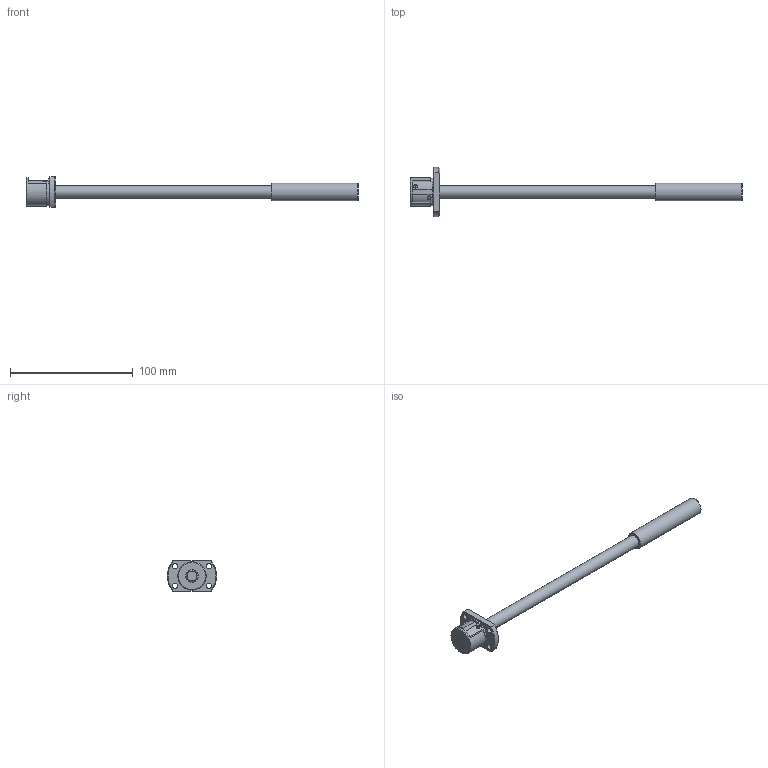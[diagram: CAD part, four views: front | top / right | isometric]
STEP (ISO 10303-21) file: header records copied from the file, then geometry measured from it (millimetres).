
FILE_DESCRIPTION( ( 'STEP AP203' ), '1' );
FILE_NAME( 'e:/temp/worker_95/temp/exporttempdir_3904_638_SkboV/format_0/SRT1002-196R270C7A0X(0None).stp', '2021-10-19T05:37:46', ( 'License CC BY-ND 4.0' ), ( 'CADENAS' ), ' ', 'PARTsolutions', ' ' );
FILE_SCHEMA( ( 'CONFIG_CONTROL_DESIGN' ) );
Length unit declared in the file: millimetre
Products named in the file (3): SRT1002-196R270C7A0X(0None); _SRT1002-196R270ACt7NoneShaft; _SRT1002Nut
Assembly tree (2 placements, depth 2):
  SRT1002-196R270C7A0X(0None)
    _SRT1002-196R270ACt7NoneShaft
    _SRT1002Nut
Bounding box: 270 x 40 x 25 mm (x, y, z)
Volume: 36588.4 mm3; surface area: 14288.9 mm2
Topology: 2 solids, 2 shells, 50 faces, 126 edges, 84 vertices
Faces by surface type: plane 24, cylinder 15, cone 11
Full cylindrical faces by diameter (mm): 1.4 x2, 4.5 x4, 10 x2, 14.2 x1, 22.5 x1, 23 x1
Entity records: 1568 total; most frequent: CARTESIAN_POINT 371, DIRECTION 232, ORIENTED_EDGE 194, AXIS2_PLACEMENT_3D 100, EDGE_CURVE 97, EDGE_LOOP 82, VERTEX_POINT 73, FACE_OUTER_BOUND 61
